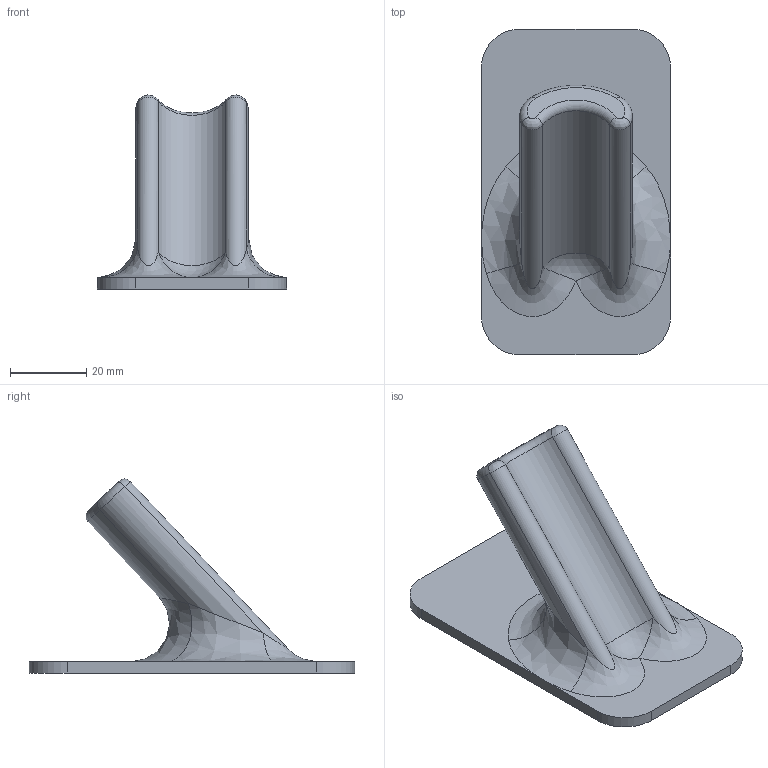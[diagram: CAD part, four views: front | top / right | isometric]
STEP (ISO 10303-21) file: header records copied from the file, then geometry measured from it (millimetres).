
FILE_DESCRIPTION(/* description */ (''),/* implementation_level */ '2;1');
FILE_NAME(/* name */ 'D:\Users\User\Documents\Inventor Projects\ViveWallMount\WallMountSingleNoHoles.stp',/* time_stamp */ '2016-04-15T12:56:58+02:00',/* author */ ('User'),/* organization */ (''),/* preprocessor_version */ 'ST-DEVELOPER v16.1',/* originating_system */ 'Autodesk Inventor 2016',/* authorisation */ '');
FILE_SCHEMA (('AUTOMOTIVE_DESIGN { 1 0 10303 214 3 1 1 }'));
Length unit declared in the file: millimetre
Products named in the file (1): WallMountSingleNoHoles
Bounding box: 49.6 x 85.44 x 50.92 mm (x, y, z)
Volume: 33514.7 mm3; surface area: 13103.3 mm2
Topology: 1 solids, 1 shells, 30 faces, 69 edges, 41 vertices
Faces by surface type: cylinder 10, plane 8, bspline 7, torus 4, sphere 1
Entity records: 1133 total; most frequent: CARTESIAN_POINT 415, DIRECTION 162, ORIENTED_EDGE 138, EDGE_CURVE 69, AXIS2_PLACEMENT_3D 69, VERTEX_POINT 41, CIRCLE 33, FACE_OUTER_BOUND 30
